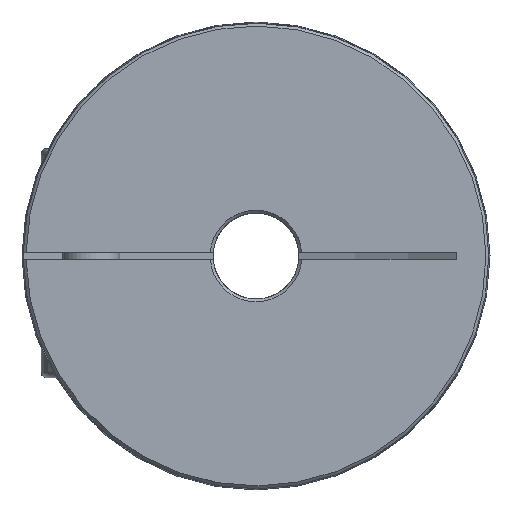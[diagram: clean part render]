
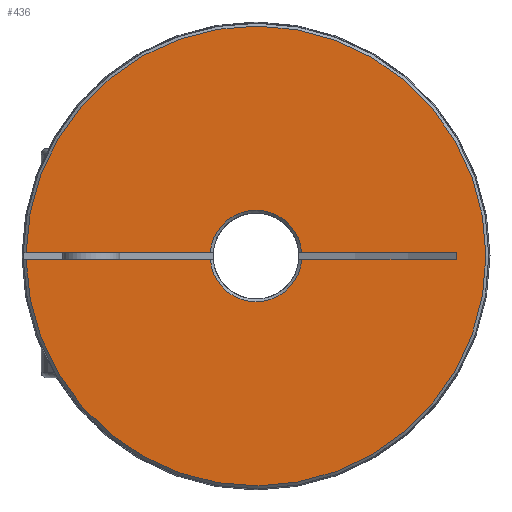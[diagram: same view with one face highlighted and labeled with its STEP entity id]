
A CAD part, left-side view. The second image highlights one B-rep face of the part: STEP entity #436.
In plain terms, the highlighted planar face has unit normal (-1, 0, 0).
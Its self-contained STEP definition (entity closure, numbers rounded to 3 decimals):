
#436 = ADVANCED_FACE( 'NONE', ( #939 ), #940, .F. );
#939 = FACE_OUTER_BOUND( '', #1558, .T. );
#940 = PLANE( '', #1559 );
#1558 = EDGE_LOOP( '', ( #2462, #2463, #2464, #2465, #2466, #2467, #2468, #2469 ) );
#1559 = AXIS2_PLACEMENT_3D( '', #2470, #2471, #2472 );
#2462 = ORIENTED_EDGE( '', *, *, #3338, .T. );
#2463 = ORIENTED_EDGE( '', *, *, #3537, .T. );
#2464 = ORIENTED_EDGE( '', *, *, #3341, .T. );
#2465 = ORIENTED_EDGE( '', *, *, #3538, .T. );
#2466 = ORIENTED_EDGE( '', *, *, #3539, .F. );
#2467 = ORIENTED_EDGE( '', *, *, #3540, .T. );
#2468 = ORIENTED_EDGE( '', *, *, #3541, .F. );
#2469 = ORIENTED_EDGE( '', *, *, #3542, .T. );
#2470 = CARTESIAN_POINT( '', ( 0., 16.25, 0. ) );
#2471 = DIRECTION( '', ( 1., 0., 0. ) );
#2472 = DIRECTION( '', ( 0., 1., 0. ) );
#3338 = EDGE_CURVE( 'NONE', #3901, #3899, #3902, .T. );
#3341 = EDGE_CURVE( 'NONE', #3905, #3906, #3907, .T. );
#3537 = EDGE_CURVE( 'NONE', #3899, #3905, #4219, .T. );
#3538 = EDGE_CURVE( 'NONE', #3906, #4220, #4221, .F. );
#3539 = EDGE_CURVE( 'NONE', #4222, #4220, #4223, .F. );
#3540 = EDGE_CURVE( 'NONE', #4222, #4224, #4225, .T. );
#3541 = EDGE_CURVE( 'NONE', #4226, #4224, #4227, .F. );
#3542 = EDGE_CURVE( 'NONE', #4226, #3901, #4228, .T. );
#3899 = VERTEX_POINT( 'NONE', #4657 );
#3901 = VERTEX_POINT( 'NONE', #4662 );
#3902 = LINE( '', #4663, #4664 );
#3905 = VERTEX_POINT( 'NONE', #4667 );
#3906 = VERTEX_POINT( 'NONE', #4668 );
#3907 = LINE( '', #4669, #4670 );
#4219 = CIRCLE( '', #5226, 3.2 );
#4220 = VERTEX_POINT( 'NONE', #5227 );
#4221 = CIRCLE( '', #5228, 16.05 );
#4222 = VERTEX_POINT( 'NONE', #5229 );
#4223 = LINE( '', #5230, #5231 );
#4224 = VERTEX_POINT( 'NONE', #5232 );
#4225 = CIRCLE( '', #5233, 3.2 );
#4226 = VERTEX_POINT( 'NONE', #5234 );
#4227 = LINE( '', #5235, #5236 );
#4228 = LINE( '', #5237, #5238 );
#4657 = CARTESIAN_POINT( '', ( 0., 0.25, -3.19 ) );
#4662 = CARTESIAN_POINT( '', ( 0., 0.25, -13.976 ) );
#4663 = CARTESIAN_POINT( '', ( 0., 0.25, 0. ) );
#4664 = VECTOR( '', #5752, 1000. );
#4667 = CARTESIAN_POINT( '', ( 0., 0.25, 3.19 ) );
#4668 = CARTESIAN_POINT( '', ( 0., 0.25, 16.048 ) );
#4669 = CARTESIAN_POINT( '', ( 0., 0.25, 0. ) );
#4670 = VECTOR( '', #5756, 1000. );
#5226 = AXIS2_PLACEMENT_3D( '', #6090, #6091, #6092 );
#5227 = CARTESIAN_POINT( '', ( 0., -0.25, 16.048 ) );
#5228 = AXIS2_PLACEMENT_3D( '', #6093, #6094, #6095 );
#5229 = CARTESIAN_POINT( '', ( 0., -0.25, 3.19 ) );
#5230 = CARTESIAN_POINT( '', ( 0., -0.25, 7. ) );
#5231 = VECTOR( '', #6096, 1000. );
#5232 = CARTESIAN_POINT( '', ( 0., -0.25, -3.19 ) );
#5233 = AXIS2_PLACEMENT_3D( '', #6097, #6098, #6099 );
#5234 = CARTESIAN_POINT( '', ( 0., -0.25, -13.976 ) );
#5235 = CARTESIAN_POINT( '', ( 0., -0.25, 7. ) );
#5236 = VECTOR( '', #6100, 1000. );
#5237 = CARTESIAN_POINT( '', ( 0., -0.25, -13.976 ) );
#5238 = VECTOR( '', #6101, 1000. );
#5752 = DIRECTION( '', ( 0., 0., 1. ) );
#5756 = DIRECTION( '', ( 0., 0., 1. ) );
#6090 = CARTESIAN_POINT( '', ( 0., 0., 0. ) );
#6091 = DIRECTION( '', ( 1., 0., 0. ) );
#6092 = DIRECTION( '', ( 0., 0., -1. ) );
#6093 = CARTESIAN_POINT( '', ( 0., 0., 0. ) );
#6094 = DIRECTION( '', ( 1., 0., 0. ) );
#6095 = DIRECTION( '', ( 0., 0., -1. ) );
#6096 = DIRECTION( '', ( 0., 0., -1. ) );
#6097 = CARTESIAN_POINT( '', ( 0., 0., 0. ) );
#6098 = DIRECTION( '', ( 1., 0., 0. ) );
#6099 = DIRECTION( '', ( 0., 0., -1. ) );
#6100 = DIRECTION( '', ( 0., 0., -1. ) );
#6101 = DIRECTION( '', ( 0., 1., 0. ) );
